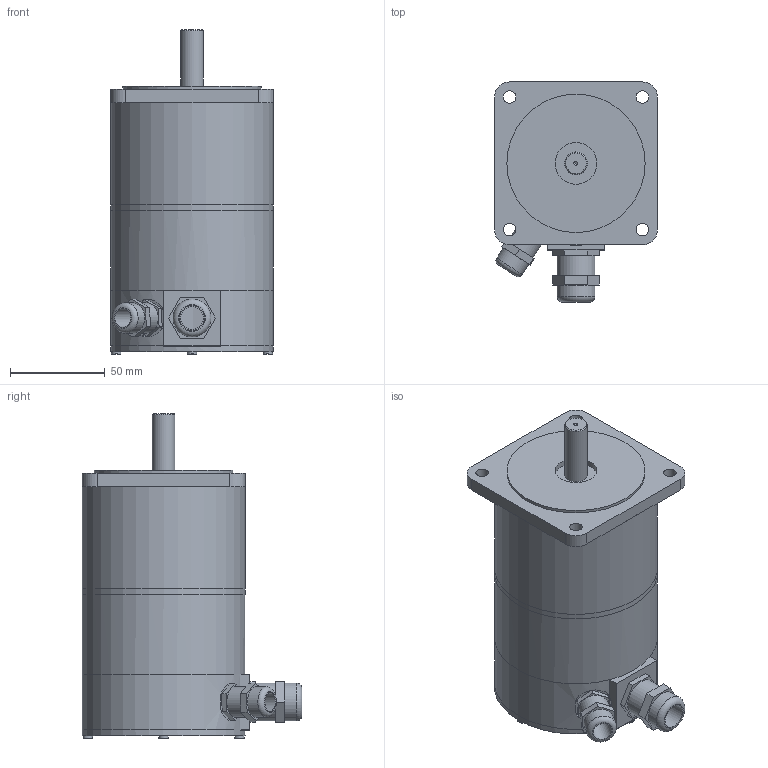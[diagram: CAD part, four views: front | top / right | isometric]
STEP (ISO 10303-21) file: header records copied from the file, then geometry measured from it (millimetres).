
FILE_DESCRIPTION((''),'2;1');
FILE_NAME('C:\Users\Reinhard\Documents\Inventor\Testschrittmotor\SM88\SM88.1-B-KV.stp','2012-11-11T21:08:18',('Reinhard'),(''),'Autodesk Inventor 2012','Autodesk Inventor 2012','');
FILE_SCHEMA(('CONFIG_CONTROL_DESIGN'));
Length unit declared in the file: millimetre
Products named in the file (1): SM88
Bounding box: 86 x 115.99 x 171.4 mm (x, y, z)
Volume: 184905.6 mm3; surface area: 114454.3 mm2
Topology: 2 solids, 3 shells, 142 faces, 317 edges, 205 vertices
Faces by surface type: plane 86, cylinder 49, cone 3, sphere 2, torus 2
Full cylindrical faces by diameter (mm): 2 x1, 5 x4, 6.6 x4, 10 x1, 12 x3, 13 x2, 15 x1, 16 x2, 18.376 x1, 20 x3, 22 x1, 73 x1, 78 x2, 82 x2, 86 x4
Entity records: 3824 total; most frequent: CARTESIAN_POINT 737, DIRECTION 653, ORIENTED_EDGE 540, EDGE_CURVE 270, AXIS2_PLACEMENT_3D 253, EDGE_LOOP 217, VERTEX_POINT 195, VECTOR 147
